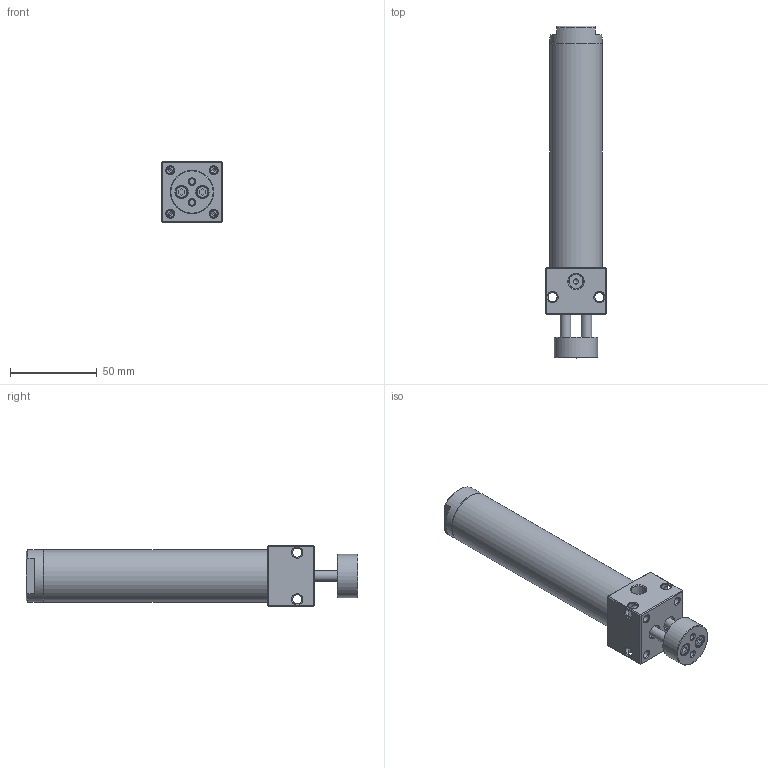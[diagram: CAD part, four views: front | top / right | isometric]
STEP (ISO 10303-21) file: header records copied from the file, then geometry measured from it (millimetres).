
FILE_DESCRIPTION((''),'2;1');
FILE_NAME('I:\3D電子目錄\氣缸\DBT\DBT\DBT25\DBT25x75.stp','2007-10-08T08:57:02',('Administrator'),(''),'Autodesk Inventor 2008','Autodesk Inventor 2008','');
FILE_SCHEMA(('AUTOMOTIVE_DESIGN { 1 0 10303 214 1 1 1 1 }'));
Length unit declared in the file: millimetre
Products named in the file (1): DBT25x75
Bounding box: 35 x 191 x 35 mm (x, y, z)
Volume: 75376.6 mm3; surface area: 42219.8 mm2
Topology: 1 solids, 5 shells, 172 faces, 396 edges, 239 vertices
Faces by surface type: plane 57, bspline 54, cone 38, cylinder 23
Full cylindrical faces by diameter (mm): 3 x1, 3.4 x1, 4 x1, 6 x3, 6.5 x1, 7 x1, 8 x1, 9 x1, 16 x1, 23.8 x2, 25 x2, 25.8 x2, 27 x2, 27.2 x2, 30 x2
Entity records: 5091 total; most frequent: CARTESIAN_POINT 1849, DIRECTION 622, ORIENTED_EDGE 548, EDGE_LOOP 308, EDGE_CURVE 274, AXIS2_PLACEMENT_3D 265, VERTEX_POINT 212, FACE_OUTER_BOUND 172
